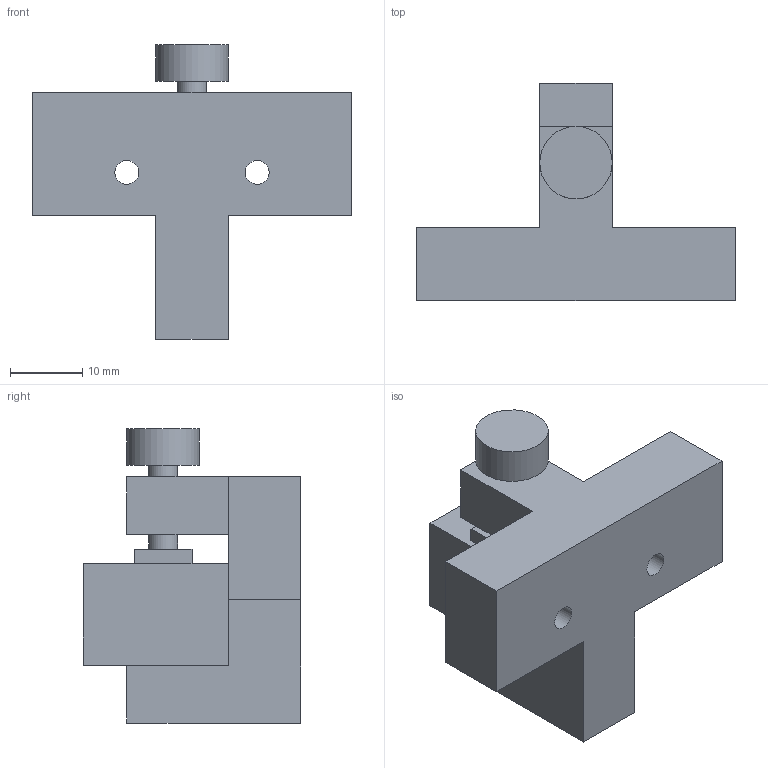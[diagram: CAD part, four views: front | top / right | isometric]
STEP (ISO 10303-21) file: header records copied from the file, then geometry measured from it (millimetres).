
FILE_DESCRIPTION(('Open CASCADE Model'),'2;1');
FILE_NAME('Open CASCADE Shape Model','2026-11-08T06:44:03',('Author'),( 'Open CASCADE'),'Open CASCADE STEP processor 7.8','Open CASCADE 7.8' ,'Unknown');
FILE_SCHEMA(('AUTOMOTIVE_DESIGN { 1 0 10303 214 1 1 1 1 }'));
Length unit declared in the file: millimetre
Products named in the file (5): L_clamped_T14_LOCAL_REFERENCE; 01_clamp_body_T14; 02_protective_pad; pressure_screw; measured_local_patch_REFERENCE
Assembly tree (4 placements, depth 2):
  L_clamped_T14_LOCAL_REFERENCE
    01_clamp_body_T14
    02_protective_pad
    pressure_screw
    measured_local_patch_REFERENCE
Bounding box: 44 x 30 x 40.6 mm (x, y, z)
Volume: 14645.9 mm3; surface area: 6545.5 mm2
Topology: 4 solids, 4 shells, 38 faces, 84 edges, 56 vertices
Faces by surface type: plane 32, cylinder 6
Full cylindrical faces by diameter (mm): 3.3 x3, 4 x1, 4.4 x1, 10 x1
Entity records: 2283 total; most frequent: CARTESIAN_POINT 405, DIRECTION 341, LINE 228, VECTOR 228, ORIENTED_EDGE 168, PCURVE 168, DEFINITIONAL_REPRESENTATION 168, EDGE_CURVE 84
